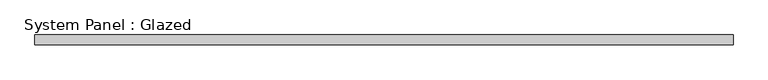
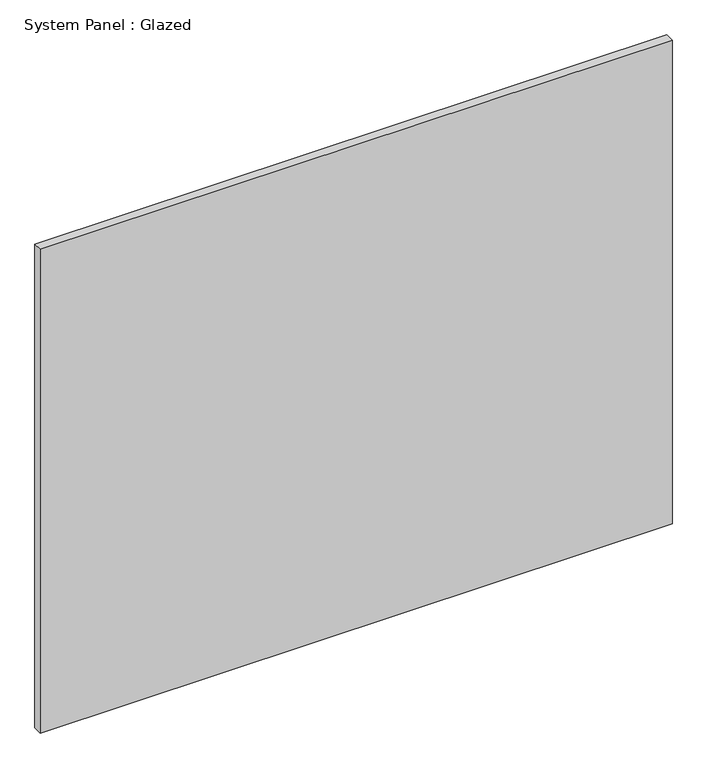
"""IFC4 building model written with IfcOpenShell, lengths in millimetres: plate geometry, System Panel : Glazed."""

from ifc_helpers import new_model, si_unit, origin, origin_with_axes, place, context, project, spatial, polyline, outline, extrude, source, transform, mapped, element, save


def system_panel_glazed_725bf07f(model_context):
    return source(origin(), model_context, "Body", "SweptSolid", [
        extrude(outline(polyline([(882.65, 19.05), (-882.65, 19.05), (-882.65, 44.45), (882.65, 44.45), (882.65, 19.05)])), origin_with_axes(), (0.0, 0.0, 1.0), 1428.75),
    ])


if __name__ == "__main__":
    model = new_model("IFC4")
    model_context = context("Model", 3, world=origin())
    ifc_project = project(units=[si_unit("LENGTHUNIT", "METRE", prefix="MILLI")], contexts=[model_context])
    site = spatial("IfcSite", under=ifc_project)
    building = spatial("IfcBuilding", under=site)
    placement = place(None, origin())
    system_panel_glazed_shape = system_panel_glazed_725bf07f(model_context)
    element("IfcPlate", 1, ObjectType="System Panel : Glazed", at=placement, inside=building, context=model_context, shape_type="MappedRepresentation", body=[
        mapped(system_panel_glazed_shape, transform((0.0, 0.0, 0.0), x_axis=(1.0, 0.0, 0.0), y_axis=(0.0, 1.0, 0.0), z_axis=(0.0, 0.0, 1.0))),
    ])
    save(model, "model.ifc")
